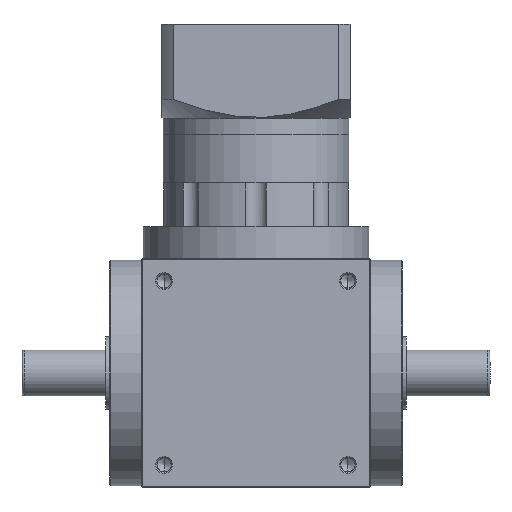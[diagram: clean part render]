
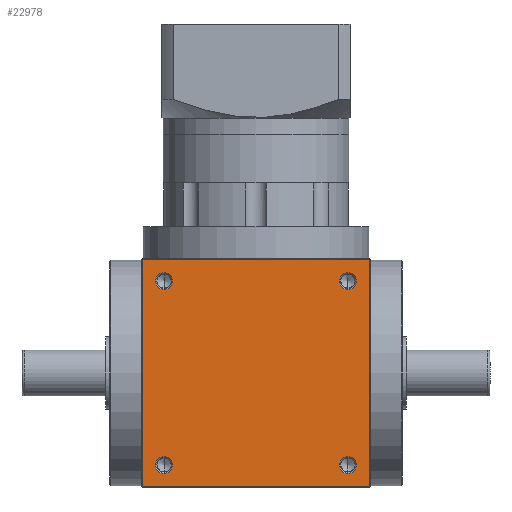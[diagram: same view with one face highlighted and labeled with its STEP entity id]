
A CAD part, front view. The second image highlights one B-rep face of the part: STEP entity #22978.
In plain terms, the highlighted planar face has unit normal (0, -1, 0).
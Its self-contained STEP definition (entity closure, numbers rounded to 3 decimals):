
#259 = ORIENTED_EDGE ( 'NONE', *, *, #54490, .F. ) ;
#689 = ORIENTED_EDGE ( 'NONE', *, *, #13226, .F. ) ;
#1845 = LINE ( 'NONE', #17351, #45156 ) ;
#1855 = DIRECTION ( 'NONE',  ( 0., -1., 0. ) ) ;
#2122 = CARTESIAN_POINT ( 'NONE',  ( 54.5, -55., 110. ) ) ;
#2743 = DIRECTION ( 'NONE',  ( 0., -1., 0. ) ) ;
#2770 = VERTEX_POINT ( 'NONE', #23418 ) ;
#5021 = DIRECTION ( 'NONE',  ( 0., 0., 1. ) ) ;
#5316 = ORIENTED_EDGE ( 'NONE', *, *, #44944, .F. ) ;
#5401 = AXIS2_PLACEMENT_3D ( 'NONE', #48127, #22924, #52350 ) ;
#5506 = VERTEX_POINT ( 'NONE', #43369 ) ;
#6361 = DIRECTION ( 'NONE',  ( 0., 0., -1. ) ) ;
#7005 = CARTESIAN_POINT ( 'NONE',  ( -44., -55., 99. ) ) ;
#8335 = CARTESIAN_POINT ( 'NONE',  ( 44., -55., 99. ) ) ;
#8754 = AXIS2_PLACEMENT_3D ( 'NONE', #26933, #1855, #31117 ) ;
#8794 = VERTEX_POINT ( 'NONE', #36768 ) ;
#8842 = FACE_OUTER_BOUND ( 'NONE', #30886, .T. ) ;
#9289 = CIRCLE ( 'NONE', #13428, 4.025 ) ;
#11187 = DIRECTION ( 'NONE',  ( 1., 0., 0. ) ) ;
#11688 = EDGE_CURVE ( 'NONE', #8794, #32559, #38267, .T. ) ;
#12386 = ORIENTED_EDGE ( 'NONE', *, *, #13873, .F. ) ;
#12512 = DIRECTION ( 'NONE',  ( 1., 0., 0. ) ) ;
#13075 = VECTOR ( 'NONE', #24461, 1000. ) ;
#13226 = EDGE_CURVE ( 'NONE', #47326, #21969, #24198, .T. ) ;
#13237 = CARTESIAN_POINT ( 'NONE',  ( -55., -55., 110. ) ) ;
#13428 = AXIS2_PLACEMENT_3D ( 'NONE', #48377, #23186, #52604 ) ;
#13873 = EDGE_CURVE ( 'NONE', #5506, #2770, #43894, .T. ) ;
#13997 = CARTESIAN_POINT ( 'NONE',  ( -39.975, -55., 11. ) ) ;
#14132 = VERTEX_POINT ( 'NONE', #52830 ) ;
#14416 = EDGE_CURVE ( 'NONE', #47892, #46572, #1845, .T. ) ;
#14670 = DIRECTION ( 'NONE',  ( 0., -1., 0. ) ) ;
#14821 = CARTESIAN_POINT ( 'NONE',  ( -54.5, -55., 110. ) ) ;
#15605 = CIRCLE ( 'NONE', #8754, 4.025 ) ;
#15982 = VECTOR ( 'NONE', #35882, 1000. ) ;
#17351 = CARTESIAN_POINT ( 'NONE',  ( -55., -55., 0.5 ) ) ;
#17864 = CIRCLE ( 'NONE', #31633, 4.025 ) ;
#19459 = EDGE_CURVE ( 'NONE', #32559, #8794, #21795, .T. ) ;
#19476 = EDGE_LOOP ( 'NONE', ( #12386, #38501 ) ) ;
#19904 = FACE_BOUND ( 'NONE', #27311, .T. ) ;
#20226 = CARTESIAN_POINT ( 'NONE',  ( -55., -55., 109.5 ) ) ;
#21247 = AXIS2_PLACEMENT_3D ( 'NONE', #27790, #2743, #32006 ) ;
#21609 = DIRECTION ( 'NONE',  ( -1., 0., 0. ) ) ;
#21795 = CIRCLE ( 'NONE', #46497, 4.025 ) ;
#21969 = VERTEX_POINT ( 'NONE', #50987 ) ;
#22924 = DIRECTION ( 'NONE',  ( 0., -1., 0. ) ) ;
#22978 = ADVANCED_FACE ( 'NONE', ( #19904, #29763, #52172, #40958, #8842 ), #51060, .F. ) ;
#23186 = DIRECTION ( 'NONE',  ( 0., -1., 0. ) ) ;
#23418 = CARTESIAN_POINT ( 'NONE',  ( 39.975, -55., 99. ) ) ;
#24198 = LINE ( 'NONE', #20226, #13075 ) ;
#24461 = DIRECTION ( 'NONE',  ( 1., 0., 0. ) ) ;
#24465 = CARTESIAN_POINT ( 'NONE',  ( -48.025, -55., 99. ) ) ;
#24542 = CARTESIAN_POINT ( 'NONE',  ( -54.5, -55., 0.5 ) ) ;
#24743 = EDGE_LOOP ( 'NONE', ( #5316, #48827 ) ) ;
#24956 = CARTESIAN_POINT ( 'NONE',  ( 44., -55., 99. ) ) ;
#25320 = CARTESIAN_POINT ( 'NONE',  ( 39.975, -55., 11. ) ) ;
#26930 = AXIS2_PLACEMENT_3D ( 'NONE', #24956, #54360, #29127 ) ;
#26933 = CARTESIAN_POINT ( 'NONE',  ( 44., -55., 11. ) ) ;
#27152 = LINE ( 'NONE', #14821, #15982 ) ;
#27311 = EDGE_LOOP ( 'NONE', ( #44737, #259 ) ) ;
#27790 = CARTESIAN_POINT ( 'NONE',  ( -44., -55., 99. ) ) ;
#28081 = LINE ( 'NONE', #2122, #49175 ) ;
#29127 = DIRECTION ( 'NONE',  ( 1., 0., 0. ) ) ;
#29491 = EDGE_CURVE ( 'NONE', #2770, #5506, #17864, .T. ) ;
#29541 = VERTEX_POINT ( 'NONE', #25320 ) ;
#29763 = FACE_BOUND ( 'NONE', #19476, .T. ) ;
#29890 = CIRCLE ( 'NONE', #50285, 4.025 ) ;
#30536 = EDGE_CURVE ( 'NONE', #14132, #51298, #9289, .T. ) ;
#30587 = EDGE_LOOP ( 'NONE', ( #43148, #44557 ) ) ;
#30886 = EDGE_LOOP ( 'NONE', ( #689, #49479, #40081, #40187 ) ) ;
#31117 = DIRECTION ( 'NONE',  ( 1., 0., 0. ) ) ;
#31633 = AXIS2_PLACEMENT_3D ( 'NONE', #8335, #37587, #12512 ) ;
#32006 = DIRECTION ( 'NONE',  ( 1., 0., 0. ) ) ;
#32559 = VERTEX_POINT ( 'NONE', #24465 ) ;
#35882 = DIRECTION ( 'NONE',  ( 0., 0., 1. ) ) ;
#36248 = DIRECTION ( 'NONE',  ( 0., -1., 0. ) ) ;
#36768 = CARTESIAN_POINT ( 'NONE',  ( -39.975, -55., 99. ) ) ;
#37104 = EDGE_CURVE ( 'NONE', #52868, #29541, #51012, .T. ) ;
#37587 = DIRECTION ( 'NONE',  ( 0., -1., 0. ) ) ;
#38225 = CARTESIAN_POINT ( 'NONE',  ( -54.5, -55., 109.5 ) ) ;
#38267 = CIRCLE ( 'NONE', #21247, 4.025 ) ;
#38320 = DIRECTION ( 'NONE',  ( 0., 1., 0. ) ) ;
#38501 = ORIENTED_EDGE ( 'NONE', *, *, #29491, .F. ) ;
#38764 = EDGE_CURVE ( 'NONE', #46572, #47326, #27152, .T. ) ;
#39800 = CARTESIAN_POINT ( 'NONE',  ( -44., -55., 11. ) ) ;
#40081 = ORIENTED_EDGE ( 'NONE', *, *, #14416, .F. ) ;
#40187 = ORIENTED_EDGE ( 'NONE', *, *, #42155, .F. ) ;
#40958 = FACE_BOUND ( 'NONE', #24743, .T. ) ;
#42155 = EDGE_CURVE ( 'NONE', #21969, #47892, #28081, .T. ) ;
#43148 = ORIENTED_EDGE ( 'NONE', *, *, #11688, .F. ) ;
#43369 = CARTESIAN_POINT ( 'NONE',  ( 48.025, -55., 99. ) ) ;
#43894 = CIRCLE ( 'NONE', #26930, 4.025 ) ;
#44067 = DIRECTION ( 'NONE',  ( 1., 0., 0. ) ) ;
#44252 = CARTESIAN_POINT ( 'NONE',  ( 54.5, -55., 0.5 ) ) ;
#44557 = ORIENTED_EDGE ( 'NONE', *, *, #19459, .F. ) ;
#44737 = ORIENTED_EDGE ( 'NONE', *, *, #37104, .F. ) ;
#44944 = EDGE_CURVE ( 'NONE', #51298, #14132, #29890, .T. ) ;
#45156 = VECTOR ( 'NONE', #21609, 1000. ) ;
#46497 = AXIS2_PLACEMENT_3D ( 'NONE', #7005, #36248, #11187 ) ;
#46572 = VERTEX_POINT ( 'NONE', #24542 ) ;
#47326 = VERTEX_POINT ( 'NONE', #38225 ) ;
#47892 = VERTEX_POINT ( 'NONE', #44252 ) ;
#48127 = CARTESIAN_POINT ( 'NONE',  ( 44., -55., 11. ) ) ;
#48377 = CARTESIAN_POINT ( 'NONE',  ( -44., -55., 11. ) ) ;
#48827 = ORIENTED_EDGE ( 'NONE', *, *, #30536, .F. ) ;
#49175 = VECTOR ( 'NONE', #6361, 1000. ) ;
#49479 = ORIENTED_EDGE ( 'NONE', *, *, #38764, .F. ) ;
#50285 = AXIS2_PLACEMENT_3D ( 'NONE', #39800, #14670, #44067 ) ;
#50987 = CARTESIAN_POINT ( 'NONE',  ( 54.5, -55., 109.5 ) ) ;
#51012 = CIRCLE ( 'NONE', #5401, 4.025 ) ;
#51060 = PLANE ( 'NONE',  #51182 ) ;
#51182 = AXIS2_PLACEMENT_3D ( 'NONE', #13237, #38320, #5021 ) ;
#51298 = VERTEX_POINT ( 'NONE', #13997 ) ;
#52172 = FACE_BOUND ( 'NONE', #30587, .T. ) ;
#52350 = DIRECTION ( 'NONE',  ( 1., 0., 0. ) ) ;
#52604 = DIRECTION ( 'NONE',  ( 1., 0., 0. ) ) ;
#52830 = CARTESIAN_POINT ( 'NONE',  ( -48.025, -55., 11. ) ) ;
#52868 = VERTEX_POINT ( 'NONE', #52910 ) ;
#52910 = CARTESIAN_POINT ( 'NONE',  ( 48.025, -55., 11. ) ) ;
#54360 = DIRECTION ( 'NONE',  ( 0., -1., 0. ) ) ;
#54490 = EDGE_CURVE ( 'NONE', #29541, #52868, #15605, .T. ) ;
